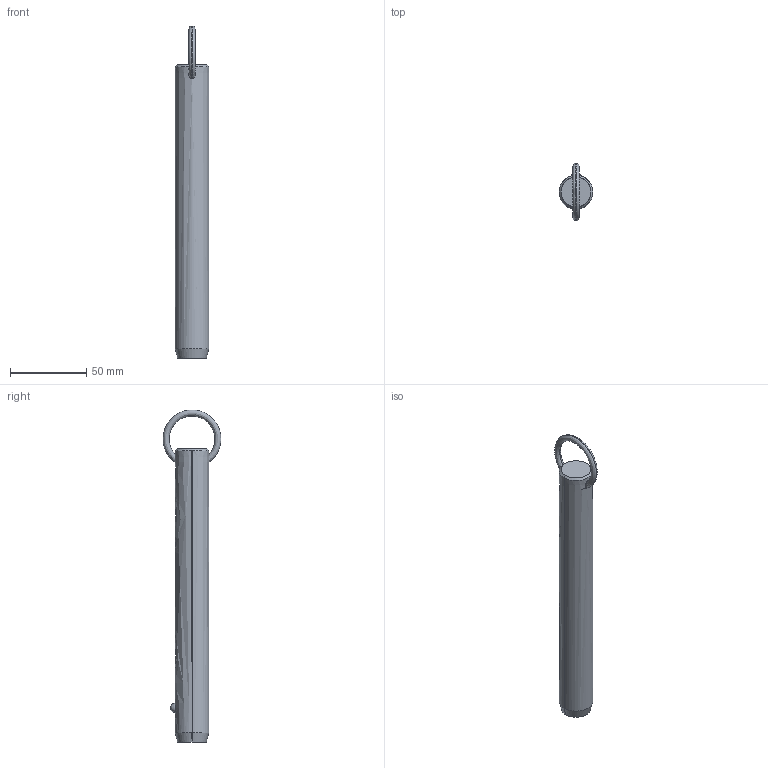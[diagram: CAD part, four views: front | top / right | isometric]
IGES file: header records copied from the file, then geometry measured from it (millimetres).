
Start section: SolidWorks IGES file using analytic representation for surfaces
Global section: file name: C:\Users\liam_\OneDrive\Documents\WORK\Work for WixRoyd\Job Files\J-00019 - Matt Davis CAD Checking\04. CAD Drawings\automotion20190605\P1250.2_v2\P1250.2_v2_20190729_IGES\P1250.087-610.igs; native system: SolidWorks 2017; preprocessor: SolidWorks 2017; author: liam_; date: 190730.074142; units: millimetre
Bounding box: 22.2 x 38.09 x 218.4 mm (x, y, z)
Surface area: 15104.2 mm2 (no closed solid volume)
Topology: 0 solids, 0 shells, 12 faces, 302 edges, 300 vertices
Faces by surface type: revolution 8, bspline 4
